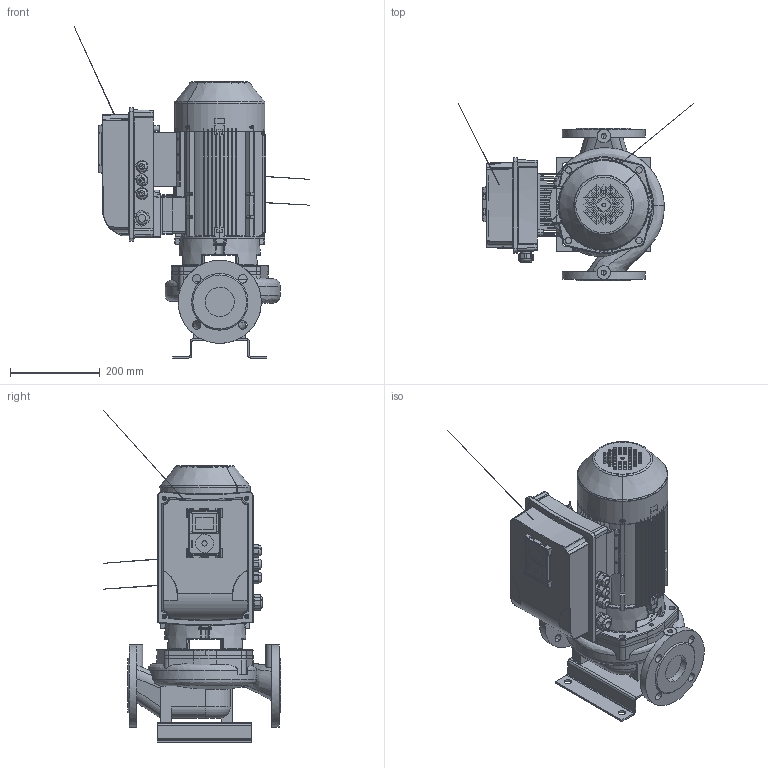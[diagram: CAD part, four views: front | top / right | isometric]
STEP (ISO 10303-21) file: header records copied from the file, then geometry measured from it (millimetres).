
FILE_DESCRIPTION(('STEP AP214'),'1');
FILE_NAME('export.stp','2018-06-01T13:59:12',(' '),(' '),'Spatial InterOp 3D',' ',' ');
FILE_SCHEMA(('AUTOMOTIVE_DESIGN { 1 0 10303 214 1 1 1 1 }'));
Length unit declared in the file: millimetre
Products named in the file (25): W_L65A4770_withou; V_TLL65AB80A1102; V_PPL65AB; V_JALKA35973; W_L65A4300_KPVS; 160027; 160005; V_MKP100-2-F19_VS; 160060___; 160059___; 160136; Vacon_MS2; G43699; Vacon20CP_MS2; MS2_bottom_final; P101407; MS2_cover_final; Vacon_Display; CAD-3D-VACON-M100-Display.sldasm; Vacon_display_pla; Vacon_display_scr; DIN_966-M5x10; M20_tiivisteholkk; M25_tiivisteholkk; SOVITUSPALA
Assembly tree (29 placements, depth 6):
  W_L65A4300_KPVS
    W_L65A4770_withou
      V_TLL65AB80A1102
      V_PPL65AB
      V_JALKA35973
    V_MKP100-2-F19_VS
      160027
        160005
      160060___
      160059___
      160136
      Vacon_MS2
        G43699
        Vacon20CP_MS2
          MS2_bottom_final
          P101407
          MS2_cover_final
          Vacon_Display
            CAD-3D-VACON-M100-Display.sldasm
            Vacon_display_pla
            Vacon_display_scr
          DIN_966-M5x10  x4
          M20_tiivisteholkk  x3
          M25_tiivisteholkk
      SOVITUSPALA
Bounding box: 525.25 x 394.38 x 739.56 mm (x, y, z)
Volume: 8543212.8 mm3; surface area: 2341179.9 mm2
Topology: 22 solids, 1496 shells, 4996 faces, 17126 edges, 13611 vertices
Faces by surface type: bspline 1785, plane 1387, cylinder 1098, torus 408, cone 264, sphere 54
Entity records: 234355 total; most frequent: CARTESIAN_POINT 97413, ORIENTED_EDGE 25344, DIRECTION 16765, EDGE_CURVE 16496, VERTEX_POINT 13293, B_SPLINE_CURVE_WITH_KNOTS 7804, AXIS2_PLACEMENT_3D 6379, EDGE_LOOP 5254
